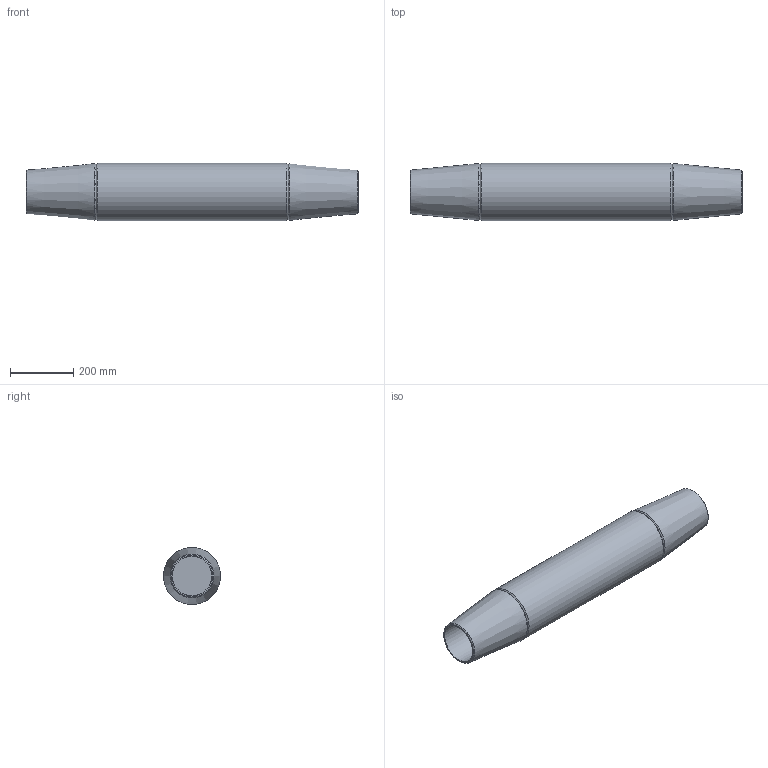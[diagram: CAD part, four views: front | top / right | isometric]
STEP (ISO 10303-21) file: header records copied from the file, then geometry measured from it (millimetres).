
FILE_DESCRIPTION(/* description */ (''),/* implementation_level */ '2;1');
FILE_NAME(/* name */ 'G:\Engineering\700 CAD\Internet-PX-1-step-igs-dxf\520-MUF-Arbeitsdateien\520-120-MUF.stp',/* time_stamp */ '2020-06-30T13:25:43+02:00',/* author */ ('schwarz'),/* organization */ (''),/* preprocessor_version */ 'ST-DEVELOPER v16.1',/* originating_system */ 'Autodesk Inventor 2016',/* authorisation */ '');
FILE_SCHEMA (('AUTOMOTIVE_DESIGN { 1 0 10303 214 3 1 1 }'));
Length unit declared in the file: centimetre
Products named in the file (1): Zusammenbau Muffe 520 120 Kunde
Bounding box: 1046 x 180 x 180 mm (x, y, z)
Volume: 20302829.5 mm3; surface area: 719426.2 mm2
Topology: 1 solids, 1 shells, 15 faces, 25 edges, 14 vertices
Faces by surface type: cone 8, plane 4, cylinder 3
Full cylindrical faces by diameter (mm): 124 x2, 180 x1
Entity records: 347 total; most frequent: DIRECTION 60, CARTESIAN_POINT 44, AXIS2_PLACEMENT_3D 30, EDGE_LOOP 28, ORIENTED_EDGE 28, STYLED_ITEM 16, FACE_OUTER_BOUND 15, ADVANCED_FACE 15
